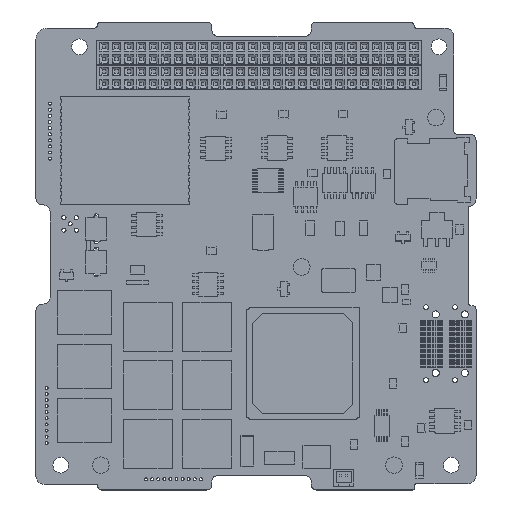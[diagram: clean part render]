
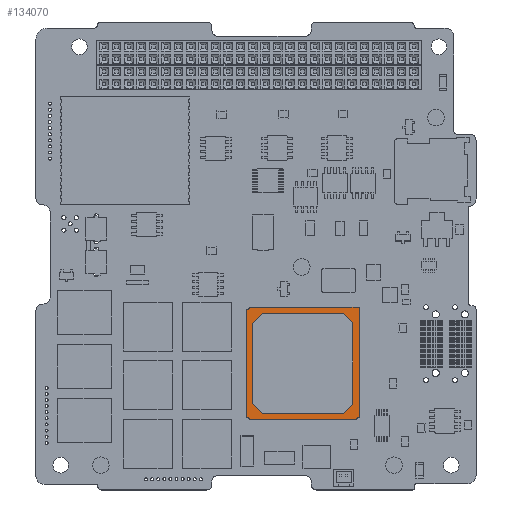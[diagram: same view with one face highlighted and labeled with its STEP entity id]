
A CAD part, top view. The second image highlights one B-rep face of the part: STEP entity #134070.
In plain terms, the highlighted planar face has unit normal (0, 0, 1).
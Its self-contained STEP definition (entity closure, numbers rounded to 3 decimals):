
#1835 = EDGE_LOOP ( 'NONE', ( #226869, #145927, #4822, #111761, #142249, #79378, #2626 ) ) ;
#2626 = ORIENTED_EDGE ( 'NONE', *, *, #134761, .T. ) ;
#3661 = VERTEX_POINT ( 'NONE', #109576 ) ;
#4822 = ORIENTED_EDGE ( 'NONE', *, *, #12118, .T. ) ;
#9817 = EDGE_CURVE ( 'NONE', #198012, #53028, #73102, .T. ) ;
#12118 = EDGE_CURVE ( 'NONE', #3661, #198012, #124053, .T. ) ;
#20558 = PLANE ( 'NONE',  #43118 ) ;
#31329 = LINE ( 'NONE', #103787, #188308 ) ;
#37096 = CARTESIAN_POINT ( 'NONE',  ( 41.596, 15.946, 77.816 ) ) ;
#37549 = DIRECTION ( 'NONE',  ( 1., 0., 0. ) ) ;
#38067 = CARTESIAN_POINT ( 'NONE',  ( 30.096, 27.446, 77.816 ) ) ;
#43039 = EDGE_CURVE ( 'NONE', #94419, #76053, #191338, .T. ) ;
#43118 = AXIS2_PLACEMENT_3D ( 'NONE', #74940, #93017, #37549 ) ;
#45311 = CARTESIAN_POINT ( 'NONE',  ( 53.096, 27.446, 77.816 ) ) ;
#47140 = CIRCLE ( 'NONE', #216811, 0.5 ) ;
#51811 = DIRECTION ( 'NONE',  ( 0., 0., -1. ) ) ;
#53028 = VERTEX_POINT ( 'NONE', #219267 ) ;
#53304 = FACE_OUTER_BOUND ( 'NONE', #1835, .T. ) ;
#73102 = LINE ( 'NONE', #38067, #182023 ) ;
#74940 = CARTESIAN_POINT ( 'NONE',  ( 41.596, 27.446, 77.816 ) ) ;
#76053 = VERTEX_POINT ( 'NONE', #104621 ) ;
#77247 = EDGE_CURVE ( 'NONE', #76053, #3661, #31329, .T. ) ;
#79378 = ORIENTED_EDGE ( 'NONE', *, *, #160264, .T. ) ;
#88819 = VECTOR ( 'NONE', #118942, 1000. ) ;
#93017 = DIRECTION ( 'NONE',  ( 0., 0., 1. ) ) ;
#94419 = VERTEX_POINT ( 'NONE', #203481 ) ;
#95369 = CARTESIAN_POINT ( 'NONE',  ( 30.596, 15.946, 77.816 ) ) ;
#96364 = CARTESIAN_POINT ( 'NONE',  ( 52.596, 15.946, 77.816 ) ) ;
#98389 = AXIS2_PLACEMENT_3D ( 'NONE', #118305, #207613, #191915 ) ;
#103787 = CARTESIAN_POINT ( 'NONE',  ( 41.596, 38.946, 77.816 ) ) ;
#104621 = CARTESIAN_POINT ( 'NONE',  ( 53.096, 38.946, 77.816 ) ) ;
#109576 = CARTESIAN_POINT ( 'NONE',  ( 30.596, 38.946, 77.816 ) ) ;
#111761 = ORIENTED_EDGE ( 'NONE', *, *, #9817, .T. ) ;
#112500 = AXIS2_PLACEMENT_3D ( 'NONE', #235266, #51811, #199009 ) ;
#118305 = CARTESIAN_POINT ( 'NONE',  ( 30.096, 15.946, 77.816 ) ) ;
#118942 = DIRECTION ( 'NONE',  ( 0., 1., 0. ) ) ;
#119174 = DIRECTION ( 'NONE',  ( 1., 0., 0. ) ) ;
#124053 = CIRCLE ( 'NONE', #112500, 0.5 ) ;
#124440 = VERTEX_POINT ( 'NONE', #95369 ) ;
#127657 = LINE ( 'NONE', #37096, #213202 ) ;
#128656 = DIRECTION ( 'NONE',  ( 0., -1., 0. ) ) ;
#133097 = CIRCLE ( 'NONE', #98389, 0.5 ) ;
#134070 = ADVANCED_FACE ( 'NONE', ( #53304 ), #20558, .T. ) ;
#134761 = EDGE_CURVE ( 'NONE', #229581, #94419, #47140, .T. ) ;
#137319 = CARTESIAN_POINT ( 'NONE',  ( 53.096, 15.946, 77.816 ) ) ;
#138160 = EDGE_CURVE ( 'NONE', #53028, #124440, #133097, .T. ) ;
#142249 = ORIENTED_EDGE ( 'NONE', *, *, #138160, .T. ) ;
#145927 = ORIENTED_EDGE ( 'NONE', *, *, #77247, .T. ) ;
#160264 = EDGE_CURVE ( 'NONE', #124440, #229581, #127657, .T. ) ;
#179751 = DIRECTION ( 'NONE',  ( -1., 0., 0. ) ) ;
#182023 = VECTOR ( 'NONE', #128656, 1000. ) ;
#188308 = VECTOR ( 'NONE', #179751, 1000. ) ;
#191338 = LINE ( 'NONE', #45311, #88819 ) ;
#191915 = DIRECTION ( 'NONE',  ( 1., 0., 0. ) ) ;
#198012 = VERTEX_POINT ( 'NONE', #236771 ) ;
#199009 = DIRECTION ( 'NONE',  ( 1., 0., 0. ) ) ;
#203481 = CARTESIAN_POINT ( 'NONE',  ( 53.096, 16.446, 77.816 ) ) ;
#207613 = DIRECTION ( 'NONE',  ( 0., 0., -1. ) ) ;
#210890 = DIRECTION ( 'NONE',  ( 0., 0., -1. ) ) ;
#213202 = VECTOR ( 'NONE', #235106, 1000. ) ;
#216811 = AXIS2_PLACEMENT_3D ( 'NONE', #137319, #210890, #119174 ) ;
#219267 = CARTESIAN_POINT ( 'NONE',  ( 30.096, 16.446, 77.816 ) ) ;
#226869 = ORIENTED_EDGE ( 'NONE', *, *, #43039, .T. ) ;
#229581 = VERTEX_POINT ( 'NONE', #96364 ) ;
#235106 = DIRECTION ( 'NONE',  ( 1., 0., 0. ) ) ;
#235266 = CARTESIAN_POINT ( 'NONE',  ( 30.096, 38.946, 77.816 ) ) ;
#236771 = CARTESIAN_POINT ( 'NONE',  ( 30.096, 38.446, 77.816 ) ) ;
